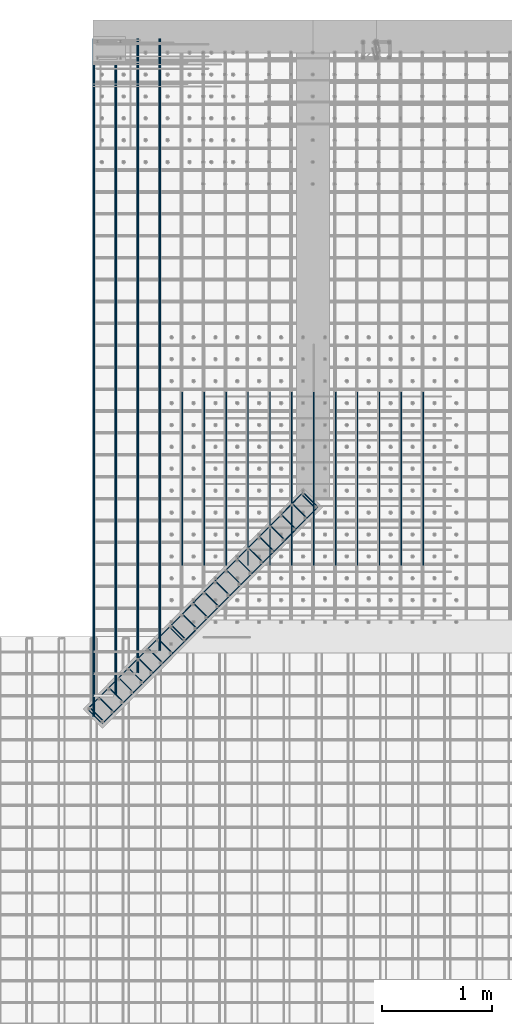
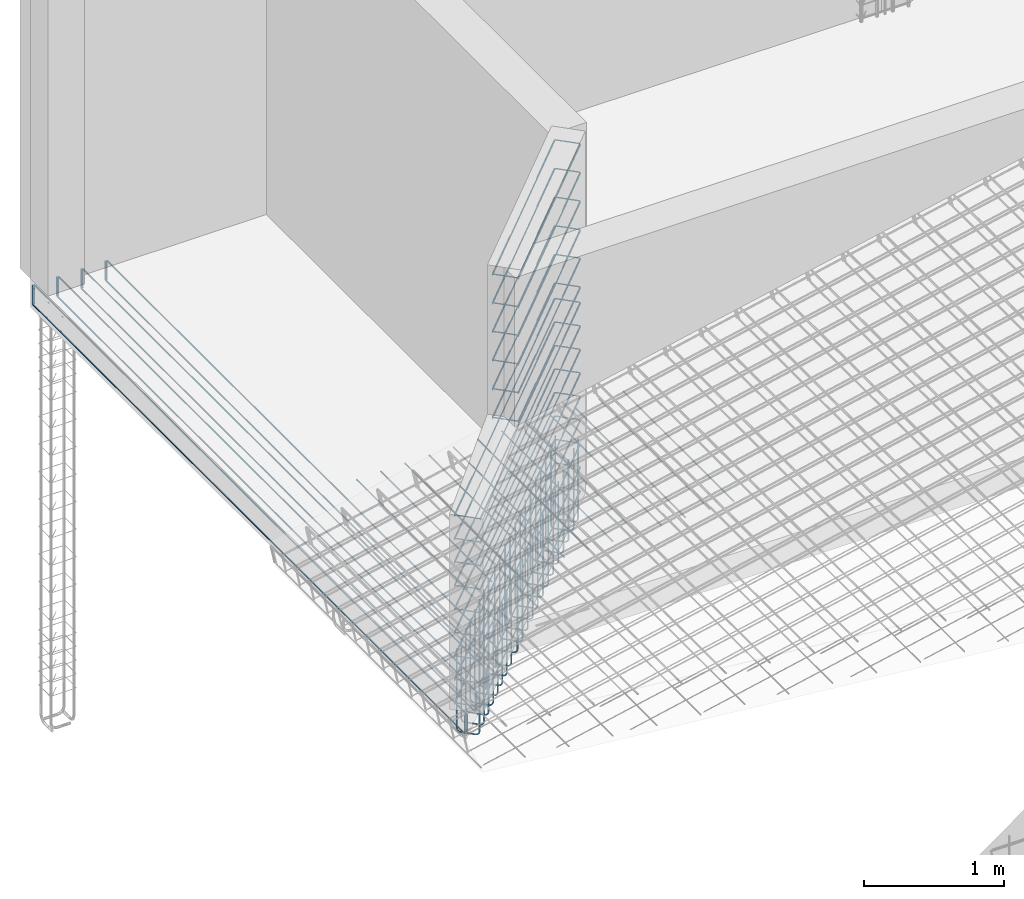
# One storey, part 5 of 17: 9 reinforcing bars.
"""IFC4 building model written with IfcOpenShell, lengths in metres."""

from ifc_helpers import new_model, entity, si_unit, frame, origin_with_axes, place, context, project, spatial, source, transform, mapped, element, save


model = new_model("IFC4")

# Units and contexts
model_context = context("Model", 3, precision=1e-05, world=origin_with_axes())
ifc_project = project(units=[si_unit("LENGTHUNIT", "METRE"), si_unit("AREAUNIT", "SQUARE_METRE"), si_unit("VOLUMEUNIT", "CUBIC_METRE"), si_unit("MASSUNIT", "GRAM", prefix="KILO"), si_unit("TIMEUNIT", "SECOND"), si_unit("PLANEANGLEUNIT", "RADIAN"), si_unit("SOLIDANGLEUNIT", "STERADIAN"), si_unit("THERMODYNAMICTEMPERATUREUNIT", "DEGREE_CELSIUS")], contexts=[model_context])

# Site, building, storey
placement_1 = place(None, origin_with_axes())
site = spatial("IfcSite", under=ifc_project, at=placement_1, Name="Italia", CompositionType="ELEMENT")
building = spatial("IfcBuilding", under=site, at=placement_1, Name="Abitazione", CompositionType="ELEMENT")
storey_placement = place(None, frame((0.0, 0.0, 3.569999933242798), z_axis=(0.0, 0.0, 1.0), x_axis=(1.0, 0.0, 0.0)))
storey = spatial("IfcBuildingStorey", under=building, at=storey_placement, Name="Storey 1", CompositionType="ELEMENT", Elevation=3.569999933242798)

# Reinforcing bars
shared_shape_1 = source(origin_with_axes(), model_context, "Body", "AdvancedSweptSolid", [
    entity("IfcSweptDiskSolid", entity("IfcIndexedPolyCurve", entity("IfcCartesianPointList3D", [[3.10307, 7.23168, 4.07], [3.10307, 7.23168, 3.375], [3.10469, 7.23007, 3.36352], [3.1093, 7.22548, 3.35379], [3.1162, 7.21862, 3.34728], [3.12434, 7.21052, 3.345], [3.17396, 7.16115, 3.345]]), [entity("IfcLineIndex", [1, 2]), entity("IfcLineIndex", [2, 3]), entity("IfcLineIndex", [3, 4]), entity("IfcLineIndex", [4, 5]), entity("IfcLineIndex", [5, 6]), entity("IfcLineIndex", [6, 7])], False), 0.006),
])
placement_2 = place(placement_1, origin_with_axes())
reinforcing_bar_1_placement = place(placement_2, origin_with_axes())
element("IfcReinforcingBar", 1, at=reinforcing_bar_1_placement, inside=storey, BarLength=0.811821, CrossSectionArea=0.0001131, NominalDiameter=0.012, context=model_context, shape_type="MappedRepresentation", body=[
    mapped(shared_shape_1, transform((-1.08847, -1.09387, 0.0), x_axis=(1.0, 0.0, 0.0), y_axis=(0.0, 1.0, 0.0), z_axis=(0.0, 0.0, 1.0), scale=1.0)),
    mapped(shared_shape_1, transform((5.33725, 13.352, 0.0), x_axis=(-1.0, 0.0, 0.0), y_axis=(0.0, -1.0, 0.0), z_axis=(0.0, 0.0, 1.0), scale=1.0)),
    mapped(shared_shape_1, transform((4.92487, 12.9375, 0.0), x_axis=(-1.0, 0.0, 0.0), y_axis=(0.0, -1.0, 0.0), z_axis=(0.0, 0.0, 1.0), scale=1.0)),
    mapped(shared_shape_1, transform((-1.4004, -1.40734, 0.0), x_axis=(1.0, 0.0, 0.0), y_axis=(0.0, 1.0, 0.0), z_axis=(0.0, 0.0, 1.0), scale=1.0)),
    mapped(shared_shape_1, transform((-1.31126, -1.31776, 0.0), x_axis=(1.0, 0.0, 0.0), y_axis=(0.0, 1.0, 0.0), z_axis=(0.0, 0.0, 1.0), scale=1.0)),
    mapped(shared_shape_1, transform((-1.48954, -1.49693, 0.0), x_axis=(1.0, 0.0, 0.0), y_axis=(0.0, 1.0, 0.0), z_axis=(0.0, 0.0, 1.0), scale=1.0)),
    mapped(shared_shape_1, transform((5.23678, 13.251, 0.0), x_axis=(-1.0, 0.0, 0.0), y_axis=(0.0, -1.0, 0.0), z_axis=(0.0, 0.0, 1.0), scale=1.0)),
    mapped(shared_shape_1, transform((5.01401, 13.0271, 0.0), x_axis=(-1.0, 0.0, 0.0), y_axis=(0.0, -1.0, 0.0), z_axis=(0.0, 0.0, 1.0), scale=1.0)),
    mapped(shared_shape_1, transform((5.13631, 13.15, 0.0), x_axis=(-1.0, 0.0, 0.0), y_axis=(0.0, -1.0, 0.0), z_axis=(0.0, 0.0, 1.0), scale=1.0)),
    mapped(shared_shape_1, transform((-1.18896, -1.19485, 0.0), x_axis=(1.0, 0.0, 0.0), y_axis=(0.0, 1.0, 0.0), z_axis=(0.0, 0.0, 1.0), scale=1.0)),
    mapped(shared_shape_1, transform((-1.57868, -1.58651, 0.0), x_axis=(1.0, 0.0, 0.0), y_axis=(0.0, 1.0, 0.0), z_axis=(0.0, 0.0, 1.0), scale=1.0)),
    mapped(shared_shape_1, transform((4.83573, 12.8479, 0.0), x_axis=(-1.0, 0.0, 0.0), y_axis=(0.0, -1.0, 0.0), z_axis=(0.0, 0.0, 1.0), scale=1.0)),
    mapped(shared_shape_1, transform((4.47916, 12.4896, 0.0), x_axis=(-1.0, 0.0, 0.0), y_axis=(0.0, -1.0, 0.0), z_axis=(0.0, 0.0, 1.0), scale=1.0)),
    mapped(shared_shape_1, transform((-1.84608, -1.85528, 0.0), x_axis=(1.0, 0.0, 0.0), y_axis=(0.0, 1.0, 0.0), z_axis=(0.0, 0.0, 1.0), scale=1.0)),
    mapped(shared_shape_1, transform((-1.75697, -1.76568, 0.0), x_axis=(1.0, 0.0, 0.0), y_axis=(0.0, 1.0, 0.0), z_axis=(0.0, 0.0, 1.0), scale=1.0)),
    mapped(shared_shape_1, transform((-1.93525, -1.94485, 0.0), x_axis=(1.0, 0.0, 0.0), y_axis=(0.0, 1.0, 0.0), z_axis=(0.0, 0.0, 1.0), scale=1.0)),
    mapped(shared_shape_1, transform((4.74659, 12.7583, 0.0), x_axis=(-1.0, 0.0, 0.0), y_axis=(0.0, -1.0, 0.0), z_axis=(0.0, 0.0, 1.0), scale=1.0)),
    mapped(shared_shape_1, transform((4.5683, 12.5792, 0.0), x_axis=(-1.0, 0.0, 0.0), y_axis=(0.0, -1.0, 0.0), z_axis=(0.0, 0.0, 1.0), scale=1.0)),
    mapped(shared_shape_1, transform((4.65742, 12.6688, 0.0), x_axis=(-1.0, 0.0, 0.0), y_axis=(0.0, -1.0, 0.0), z_axis=(0.0, 0.0, 1.0), scale=1.0)),
    mapped(shared_shape_1, transform((-1.66783, -1.6761, 0.0), x_axis=(1.0, 0.0, 0.0), y_axis=(0.0, 1.0, 0.0), z_axis=(0.0, 0.0, 1.0), scale=1.0)),
    mapped(shared_shape_1, transform((0.0, 0.0, 0.0), x_axis=(1.0, 0.0, 0.0), y_axis=(0.0, 1.0, 0.0), z_axis=(0.0, 0.0, 1.0), scale=1.0)),
    mapped(shared_shape_1, transform((4.39002, 12.4, 0.0), x_axis=(-1.0, 0.0, 0.0), y_axis=(0.0, -1.0, 0.0), z_axis=(0.0, 0.0, 1.0), scale=1.0)),
    mapped(shared_shape_1, transform((6.04072, 14.0589, 0.0), x_axis=(-1.0, 0.0, 0.0), y_axis=(0.0, -1.0, 0.0), z_axis=(0.0, 0.0, 1.0), scale=1.0)),
    mapped(shared_shape_1, transform((-0.284564, -0.285945, 0.0), x_axis=(1.0, 0.0, 0.0), y_axis=(0.0, 1.0, 0.0), z_axis=(0.0, 0.0, 1.0), scale=1.0)),
    mapped(shared_shape_1, transform((-0.184074, -0.184956, 0.0), x_axis=(1.0, 0.0, 0.0), y_axis=(0.0, 1.0, 0.0), z_axis=(0.0, 0.0, 1.0), scale=1.0)),
    mapped(shared_shape_1, transform((-0.385053, -0.386935, 0.0), x_axis=(1.0, 0.0, 0.0), y_axis=(0.0, 1.0, 0.0), z_axis=(0.0, 0.0, 1.0), scale=1.0)),
    mapped(shared_shape_1, transform((6.32526, 14.3449, 0.0), x_axis=(-1.0, 0.0, 0.0), y_axis=(0.0, -1.0, 0.0), z_axis=(0.0, 0.0, 1.0), scale=1.0)),
    mapped(shared_shape_1, transform((6.14118, 14.1599, 0.0), x_axis=(-1.0, 0.0, 0.0), y_axis=(0.0, -1.0, 0.0), z_axis=(0.0, 0.0, 1.0), scale=1.0)),
    mapped(shared_shape_1, transform((6.24167, 14.2609, 0.0), x_axis=(-1.0, 0.0, 0.0), y_axis=(0.0, -1.0, 0.0), z_axis=(0.0, 0.0, 1.0), scale=1.0)),
    mapped(shared_shape_1, transform((-0.083585, -0.0839667, 0.0), x_axis=(1.0, 0.0, 0.0), y_axis=(0.0, 1.0, 0.0), z_axis=(0.0, 0.0, 1.0), scale=1.0)),
    mapped(shared_shape_1, transform((-0.485531, -0.48793, 0.0), x_axis=(1.0, 0.0, 0.0), y_axis=(0.0, 1.0, 0.0), z_axis=(0.0, 0.0, 1.0), scale=1.0)),
    mapped(shared_shape_1, transform((5.94023, 13.9579, 0.0), x_axis=(-1.0, 0.0, 0.0), y_axis=(0.0, -1.0, 0.0), z_axis=(0.0, 0.0, 1.0), scale=1.0)),
    mapped(shared_shape_1, transform((5.53828, 13.5539, 0.0), x_axis=(-1.0, 0.0, 0.0), y_axis=(0.0, -1.0, 0.0), z_axis=(0.0, 0.0, 1.0), scale=1.0)),
    mapped(shared_shape_1, transform((-0.787011, -0.790893, 0.0), x_axis=(1.0, 0.0, 0.0), y_axis=(0.0, 1.0, 0.0), z_axis=(0.0, 0.0, 1.0), scale=1.0)),
    mapped(shared_shape_1, transform((-0.68651, -0.689908, 0.0), x_axis=(1.0, 0.0, 0.0), y_axis=(0.0, 1.0, 0.0), z_axis=(0.0, 0.0, 1.0), scale=1.0)),
    mapped(shared_shape_1, transform((-0.887477, -0.891893, 0.0), x_axis=(1.0, 0.0, 0.0), y_axis=(0.0, 1.0, 0.0), z_axis=(0.0, 0.0, 1.0), scale=1.0)),
    mapped(shared_shape_1, transform((5.83974, 13.8569, 0.0), x_axis=(-1.0, 0.0, 0.0), y_axis=(0.0, -1.0, 0.0), z_axis=(0.0, 0.0, 1.0), scale=1.0)),
    mapped(shared_shape_1, transform((5.63876, 13.6549, 0.0), x_axis=(-1.0, 0.0, 0.0), y_axis=(0.0, -1.0, 0.0), z_axis=(0.0, 0.0, 1.0), scale=1.0)),
    mapped(shared_shape_1, transform((5.73921, 13.7559, 0.0), x_axis=(-1.0, 0.0, 0.0), y_axis=(0.0, -1.0, 0.0), z_axis=(0.0, 0.0, 1.0), scale=1.0)),
    mapped(shared_shape_1, transform((-0.586009, -0.588924, 0.0), x_axis=(1.0, 0.0, 0.0), y_axis=(0.0, 1.0, 0.0), z_axis=(0.0, 0.0, 1.0), scale=1.0)),
    mapped(shared_shape_1, transform((-0.987978, -0.992877, 0.0), x_axis=(1.0, 0.0, 0.0), y_axis=(0.0, 1.0, 0.0), z_axis=(0.0, 0.0, 1.0), scale=1.0)),
    mapped(shared_shape_1, transform((5.43776, 13.453, 0.0), x_axis=(-1.0, 0.0, 0.0), y_axis=(0.0, -1.0, 0.0), z_axis=(0.0, 0.0, 1.0), scale=1.0)),
])
shared_shape_2 = source(origin_with_axes(), model_context, "Body", "AdvancedSweptSolid", [
    entity("IfcSweptDiskSolid", entity("IfcIndexedPolyCurve", entity("IfcCartesianPointList3D", [[3.24618, 7.12173, 3.6], [1.2785, 5.14426, 3.6]]), [entity("IfcLineIndex", [1, 2])], False), 0.005),
])
reinforcing_bar_2_placement = place(placement_2, origin_with_axes())
element("IfcReinforcingBar", 2, at=reinforcing_bar_2_placement, inside=storey, BarLength=2.78965, CrossSectionArea=7.854e-05, NominalDiameter=0.01, context=model_context, shape_type="MappedRepresentation", body=[
    mapped(shared_shape_2, transform((0.0, 0.0, 0.82015), x_axis=(1.0, 0.0, 0.0), y_axis=(0.0, 1.0, 0.0), z_axis=(0.0, 0.0, 1.0), scale=1.0)),
    mapped(shared_shape_2, transform((4.39, 12.4, 0.0), x_axis=(-1.0, 0.0, 0.0), y_axis=(0.0, -1.0, 0.0), z_axis=(0.0, 0.0, 1.0), scale=1.0)),
    mapped(shared_shape_2, transform((0.0, 0.0, 1.43526), x_axis=(1.0, 0.0, 0.0), y_axis=(0.0, 1.0, 0.0), z_axis=(0.0, 0.0, 1.0), scale=1.0)),
    mapped(shared_shape_2, transform((0.0, 0.0, 0.410075), x_axis=(1.0, 0.0, 0.0), y_axis=(0.0, 1.0, 0.0), z_axis=(0.0, 0.0, 1.0), scale=1.0)),
    mapped(shared_shape_2, transform((0.0, 0.0, 1.6403), x_axis=(1.0, 0.0, 0.0), y_axis=(0.0, 1.0, 0.0), z_axis=(0.0, 0.0, 1.0), scale=1.0)),
    mapped(shared_shape_2, transform((0.0, 0.0, 0.615113), x_axis=(1.0, 0.0, 0.0), y_axis=(0.0, 1.0, 0.0), z_axis=(0.0, 0.0, 1.0), scale=1.0)),
    mapped(shared_shape_2, transform((0.0, 0.0, 1.02519), x_axis=(1.0, 0.0, 0.0), y_axis=(0.0, 1.0, 0.0), z_axis=(0.0, 0.0, 1.0), scale=1.0)),
    mapped(shared_shape_2, transform((0.0, 0.0, 0.0), x_axis=(1.0, 0.0, 0.0), y_axis=(0.0, 1.0, 0.0), z_axis=(0.0, 0.0, 1.0), scale=1.0)),
    mapped(shared_shape_2, transform((4.39, 12.4, 0.205038), x_axis=(-1.0, 0.0, 0.0), y_axis=(0.0, -1.0, 0.0), z_axis=(0.0, 0.0, 1.0), scale=1.0)),
    mapped(shared_shape_2, transform((0.0, 0.0, 1.23023), x_axis=(1.0, 0.0, 0.0), y_axis=(0.0, 1.0, 0.0), z_axis=(0.0, 0.0, 1.0), scale=1.0)),
    mapped(shared_shape_2, transform((0.0, 0.0, 0.205038), x_axis=(1.0, 0.0, 0.0), y_axis=(0.0, 1.0, 0.0), z_axis=(0.0, 0.0, 1.0), scale=1.0)),
    mapped(shared_shape_2, transform((4.39, 12.4, 0.82015), x_axis=(-1.0, 0.0, 0.0), y_axis=(0.0, -1.0, 0.0), z_axis=(0.0, 0.0, 1.0), scale=1.0)),
    mapped(shared_shape_2, transform((4.39, 12.4, 1.02519), x_axis=(-1.0, 0.0, 0.0), y_axis=(0.0, -1.0, 0.0), z_axis=(0.0, 0.0, 1.0), scale=1.0)),
    mapped(shared_shape_2, transform((4.39, 12.4, 1.6403), x_axis=(-1.0, 0.0, 0.0), y_axis=(0.0, -1.0, 0.0), z_axis=(0.0, 0.0, 1.0), scale=1.0)),
    mapped(shared_shape_2, transform((4.39, 12.4, 0.615113), x_axis=(-1.0, 0.0, 0.0), y_axis=(0.0, -1.0, 0.0), z_axis=(0.0, 0.0, 1.0), scale=1.0)),
    mapped(shared_shape_2, transform((4.39, 12.4, 1.43526), x_axis=(-1.0, 0.0, 0.0), y_axis=(0.0, -1.0, 0.0), z_axis=(0.0, 0.0, 1.0), scale=1.0)),
    mapped(shared_shape_2, transform((4.39, 12.4, 0.410075), x_axis=(-1.0, 0.0, 0.0), y_axis=(0.0, -1.0, 0.0), z_axis=(0.0, 0.0, 1.0), scale=1.0)),
    mapped(shared_shape_2, transform((4.39, 12.4, 1.23023), x_axis=(-1.0, 0.0, 0.0), y_axis=(0.0, -1.0, 0.0), z_axis=(0.0, 0.0, 1.0), scale=1.0)),
])
shared_shape_3 = source(origin_with_axes(), model_context, "Body", "AdvancedSweptSolid", [
    entity("IfcSweptDiskSolid", entity("IfcIndexedPolyCurve", entity("IfcCartesianPointList3D", [[2.76588, 6.9084, 3.61], [3.10444, 7.24865, 3.61], [3.10768, 7.25083, 3.61], [3.11151, 7.2516, 3.61], [3.11534, 7.25085, 3.61], [3.11859, 7.24869, 3.61], [3.23909, 7.12878, 3.61], [3.24127, 7.12554, 3.61], [3.24204, 7.12172, 3.61], [3.24129, 7.11789, 3.61], [3.23913, 7.11464, 3.61], [2.90056, 6.77438, 3.61]]), [entity("IfcLineIndex", [1, 2]), entity("IfcLineIndex", [2, 3]), entity("IfcLineIndex", [3, 4]), entity("IfcLineIndex", [4, 5]), entity("IfcLineIndex", [5, 6]), entity("IfcLineIndex", [6, 7]), entity("IfcLineIndex", [7, 8]), entity("IfcLineIndex", [8, 9]), entity("IfcLineIndex", [9, 10]), entity("IfcLineIndex", [10, 11]), entity("IfcLineIndex", [11, 12])], False), 0.005),
])
reinforcing_bar_3_placement = place(placement_2, origin_with_axes())
element("IfcReinforcingBar", 3, at=reinforcing_bar_3_placement, inside=storey, BarLength=1.16122, CrossSectionArea=7.854e-05, NominalDiameter=0.01, context=model_context, shape_type="MappedRepresentation", body=[
    mapped(shared_shape_3, transform((0.0, 0.0, 1.43526), x_axis=(1.0, 0.0, 0.0), y_axis=(0.0, 1.0, 0.0), z_axis=(0.0, 0.0, 1.0), scale=1.0)),
    mapped(shared_shape_3, transform((4.39001, 12.4, 0.0), x_axis=(-1.0, 0.0, 0.0), y_axis=(0.0, -1.0, 0.0), z_axis=(0.0, 0.0, 1.0), scale=1.0)),
    mapped(shared_shape_3, transform((0.0, 0.0, 2.52515), x_axis=(1.0, 0.0, 0.0), y_axis=(0.0, 1.0, 0.0), z_axis=(0.0, 0.0, 1.0), scale=1.0)),
    mapped(shared_shape_3, transform((0.0, 0.0, 0.82015), x_axis=(1.0, 0.0, 0.0), y_axis=(0.0, 1.0, 0.0), z_axis=(0.0, 0.0, 1.0), scale=1.0)),
    mapped(shared_shape_3, transform((0.0, 0.0, 2.27515), x_axis=(1.0, 0.0, 0.0), y_axis=(0.0, 1.0, 0.0), z_axis=(0.0, 0.0, 1.0), scale=1.0)),
    mapped(shared_shape_3, transform((0.0, 0.0, 2.77515), x_axis=(1.0, 0.0, 0.0), y_axis=(0.0, 1.0, 0.0), z_axis=(0.0, 0.0, 1.0), scale=1.0)),
    mapped(shared_shape_3, transform((0.0, 0.0, 1.02519), x_axis=(1.0, 0.0, 0.0), y_axis=(0.0, 1.0, 0.0), z_axis=(0.0, 0.0, 1.0), scale=1.0)),
    mapped(shared_shape_3, transform((0.0, 0.0, 1.23022), x_axis=(1.0, 0.0, 0.0), y_axis=(0.0, 1.0, 0.0), z_axis=(0.0, 0.0, 1.0), scale=1.0)),
    mapped(shared_shape_3, transform((0.0, 0.0, 0.0), x_axis=(1.0, 0.0, 0.0), y_axis=(0.0, 1.0, 0.0), z_axis=(0.0, 0.0, 1.0), scale=1.0)),
    mapped(shared_shape_3, transform((4.39001, 12.4, 0.205038), x_axis=(-1.0, 0.0, 0.0), y_axis=(0.0, -1.0, 0.0), z_axis=(0.0, 0.0, 1.0), scale=1.0)),
    mapped(shared_shape_3, transform((0.0, 0.0, 3.02515), x_axis=(1.0, 0.0, 0.0), y_axis=(0.0, 1.0, 0.0), z_axis=(0.0, 0.0, 1.0), scale=1.0)),
    mapped(shared_shape_3, transform((0.0, 0.0, 0.615113), x_axis=(1.0, 0.0, 0.0), y_axis=(0.0, 1.0, 0.0), z_axis=(0.0, 0.0, 1.0), scale=1.0)),
    mapped(shared_shape_3, transform((0.0, 0.0, 0.205038), x_axis=(1.0, 0.0, 0.0), y_axis=(0.0, 1.0, 0.0), z_axis=(0.0, 0.0, 1.0), scale=1.0)),
    mapped(shared_shape_3, transform((4.39001, 12.4, 0.410075), x_axis=(-1.0, 0.0, 0.0), y_axis=(0.0, -1.0, 0.0), z_axis=(0.0, 0.0, 1.0), scale=1.0)),
    mapped(shared_shape_3, transform((0.0, 0.0, 0.410075), x_axis=(1.0, 0.0, 0.0), y_axis=(0.0, 1.0, 0.0), z_axis=(0.0, 0.0, 1.0), scale=1.0)),
    mapped(shared_shape_3, transform((4.39001, 12.4, 0.82015), x_axis=(-1.0, 0.0, 0.0), y_axis=(0.0, -1.0, 0.0), z_axis=(0.0, 0.0, 1.0), scale=1.0)),
    mapped(shared_shape_3, transform((4.39001, 12.4, 1.02519), x_axis=(-1.0, 0.0, 0.0), y_axis=(0.0, -1.0, 0.0), z_axis=(0.0, 0.0, 1.0), scale=1.0)),
    mapped(shared_shape_3, transform((4.39001, 12.4, 0.615113), x_axis=(-1.0, 0.0, 0.0), y_axis=(0.0, -1.0, 0.0), z_axis=(0.0, 0.0, 1.0), scale=1.0)),
    mapped(shared_shape_3, transform((4.39001, 12.4, 1.6403), x_axis=(-1.0, 0.0, 0.0), y_axis=(0.0, -1.0, 0.0), z_axis=(0.0, 0.0, 1.0), scale=1.0)),
    mapped(shared_shape_3, transform((4.39001, 12.4, 1.43526), x_axis=(-1.0, 0.0, 0.0), y_axis=(0.0, -1.0, 0.0), z_axis=(0.0, 0.0, 1.0), scale=1.0)),
    mapped(shared_shape_3, transform((4.39001, 12.4, 1.23022), x_axis=(-1.0, 0.0, 0.0), y_axis=(0.0, -1.0, 0.0), z_axis=(0.0, 0.0, 1.0), scale=1.0)),
    mapped(shared_shape_3, transform((0.0, 0.0, 2.02515), x_axis=(1.0, 0.0, 0.0), y_axis=(0.0, 1.0, 0.0), z_axis=(0.0, 0.0, 1.0), scale=1.0)),
    mapped(shared_shape_3, transform((0.0, 0.0, 1.6403), x_axis=(1.0, 0.0, 0.0), y_axis=(0.0, 1.0, 0.0), z_axis=(0.0, 0.0, 1.0), scale=1.0)),
    mapped(shared_shape_3, transform((5.13629, 13.15, 1.77515), x_axis=(-1.0, 0.0, 0.0), y_axis=(0.0, -1.0, 0.0), z_axis=(0.0, 0.0, 1.0), scale=1.0)),
    mapped(shared_shape_3, transform((0.0, 0.0, 1.77515), x_axis=(1.0, 0.0, 0.0), y_axis=(0.0, 1.0, 0.0), z_axis=(0.0, 0.0, 1.0), scale=1.0)),
    mapped(shared_shape_3, transform((5.13629, 13.15, 2.27515), x_axis=(-1.0, 0.0, 0.0), y_axis=(0.0, -1.0, 0.0), z_axis=(0.0, 0.0, 1.0), scale=1.0)),
    mapped(shared_shape_3, transform((5.13629, 13.15, 2.77515), x_axis=(-1.0, 0.0, 0.0), y_axis=(0.0, -1.0, 0.0), z_axis=(0.0, 0.0, 1.0), scale=1.0)),
    mapped(shared_shape_3, transform((5.13629, 13.15, 3.02515), x_axis=(-1.0, 0.0, 0.0), y_axis=(0.0, -1.0, 0.0), z_axis=(0.0, 0.0, 1.0), scale=1.0)),
    mapped(shared_shape_3, transform((5.13629, 13.15, 2.52515), x_axis=(-1.0, 0.0, 0.0), y_axis=(0.0, -1.0, 0.0), z_axis=(0.0, 0.0, 1.0), scale=1.0)),
    mapped(shared_shape_3, transform((5.13629, 13.15, 2.02515), x_axis=(-1.0, 0.0, 0.0), y_axis=(0.0, -1.0, 0.0), z_axis=(0.0, 0.0, 1.0), scale=1.0)),
])
shared_shape_4 = source(origin_with_axes(), model_context, "Body", "AdvancedSweptSolid", [
    entity("IfcSweptDiskSolid", entity("IfcIndexedPolyCurve", entity("IfcCartesianPointList3D", [[3.24618, 7.12173, 5.37515], [2.02479, 5.89426, 5.37515]]), [entity("IfcLineIndex", [1, 2])], False), 0.005),
])
reinforcing_bar_4_placement = place(placement_2, origin_with_axes())
element("IfcReinforcingBar", 4, at=reinforcing_bar_4_placement, inside=storey, BarLength=1.73161, CrossSectionArea=7.854e-05, NominalDiameter=0.01, context=model_context, shape_type="MappedRepresentation", body=[
    mapped(shared_shape_4, transform((0.0, 0.0, 1.0), x_axis=(1.0, 0.0, 0.0), y_axis=(0.0, 1.0, 0.0), z_axis=(0.0, 0.0, 1.0), scale=1.0)),
    mapped(shared_shape_4, transform((0.0, 0.0, 1.25), x_axis=(1.0, 0.0, 0.0), y_axis=(0.0, 1.0, 0.0), z_axis=(0.0, 0.0, 1.0), scale=1.0)),
    mapped(shared_shape_4, transform((0.0, 0.0, 0.75), x_axis=(1.0, 0.0, 0.0), y_axis=(0.0, 1.0, 0.0), z_axis=(0.0, 0.0, 1.0), scale=1.0)),
    mapped(shared_shape_4, transform((5.13629, 13.15, 0.0), x_axis=(-1.0, 0.0, 0.0), y_axis=(0.0, -1.0, 0.0), z_axis=(0.0, 0.0, 1.0), scale=1.0)),
    mapped(shared_shape_4, transform((0.0, 0.0, 0.25), x_axis=(1.0, 0.0, 0.0), y_axis=(0.0, 1.0, 0.0), z_axis=(0.0, 0.0, 1.0), scale=1.0)),
    mapped(shared_shape_4, transform((0.0, 0.0, 0.5), x_axis=(1.0, 0.0, 0.0), y_axis=(0.0, 1.0, 0.0), z_axis=(0.0, 0.0, 1.0), scale=1.0)),
    mapped(shared_shape_4, transform((0.0, 0.0, 0.0), x_axis=(1.0, 0.0, 0.0), y_axis=(0.0, 1.0, 0.0), z_axis=(0.0, 0.0, 1.0), scale=1.0)),
    mapped(shared_shape_4, transform((5.13629, 13.15, 1.25), x_axis=(-1.0, 0.0, 0.0), y_axis=(0.0, -1.0, 0.0), z_axis=(0.0, 0.0, 1.0), scale=1.0)),
    mapped(shared_shape_4, transform((5.13629, 13.15, 0.75), x_axis=(-1.0, 0.0, 0.0), y_axis=(0.0, -1.0, 0.0), z_axis=(0.0, 0.0, 1.0), scale=1.0)),
    mapped(shared_shape_4, transform((5.13629, 13.15, 1.0), x_axis=(-1.0, 0.0, 0.0), y_axis=(0.0, -1.0, 0.0), z_axis=(0.0, 0.0, 1.0), scale=1.0)),
    mapped(shared_shape_4, transform((5.13629, 13.15, 0.5), x_axis=(-1.0, 0.0, 0.0), y_axis=(0.0, -1.0, 0.0), z_axis=(0.0, 0.0, 1.0), scale=1.0)),
    mapped(shared_shape_4, transform((5.13629, 13.15, 0.25), x_axis=(-1.0, 0.0, 0.0), y_axis=(0.0, -1.0, 0.0), z_axis=(0.0, 0.0, 1.0), scale=1.0)),
])
shared_shape_5 = source(origin_with_axes(), model_context, "Body", "AdvancedSweptSolid", [
    entity("IfcSweptDiskSolid", entity("IfcIndexedPolyCurve", entity("IfcCartesianPointList3D", [[1.206, 5.21205, 3.362], [1.206, 5.21205, 3.518], [1.206, 5.21281, 3.52183], [1.206, 5.21498, 3.52507], [1.206, 5.21822, 3.52724], [1.206, 5.22205, 3.528], [1.206, 11.386, 3.528], [1.206, 11.3898, 3.52724], [1.206, 11.3931, 3.52507], [1.206, 11.3952, 3.52183], [1.206, 11.396, 3.518], [1.206, 11.396, 3.362]]), [entity("IfcLineIndex", [1, 2]), entity("IfcLineIndex", [2, 3]), entity("IfcLineIndex", [3, 4]), entity("IfcLineIndex", [4, 5]), entity("IfcLineIndex", [5, 6]), entity("IfcLineIndex", [6, 7]), entity("IfcLineIndex", [7, 8]), entity("IfcLineIndex", [8, 9]), entity("IfcLineIndex", [9, 10]), entity("IfcLineIndex", [10, 11]), entity("IfcLineIndex", [11, 12])], False), 0.006),
])
reinforcing_bar_5_placement = place(placement_2, origin_with_axes())
element("IfcReinforcingBar", 5, at=reinforcing_bar_5_placement, inside=storey, BarLength=6.50716, CrossSectionArea=0.0001131, NominalDiameter=0.012, context=model_context, shape_type="MappedRepresentation", body=[
    mapped(shared_shape_5, transform((2.4, 0.0, 6.89), x_axis=(-1.0, 0.0, 0.0), y_axis=(0.0, 1.0, 0.0), z_axis=(0.0, 0.0, -1.0), scale=1.0)),
    mapped(shared_shape_5, transform((0.0, 0.0, 0.0), x_axis=(1.0, 0.0, 0.0), y_axis=(0.0, 1.0, 0.0), z_axis=(0.0, 0.0, 1.0), scale=1.0)),
])
shared_shape_6 = source(origin_with_axes(), model_context, "Body", "AdvancedSweptSolid", [
    entity("IfcSweptDiskSolid", entity("IfcIndexedPolyCurve", entity("IfcCartesianPointList3D", [[1.406, 5.41304, 3.362], [1.406, 5.41304, 3.518], [1.406, 5.41381, 3.52183], [1.406, 5.41597, 3.52507], [1.406, 5.41922, 3.52724], [1.406, 5.42304, 3.528], [1.406, 11.386, 3.528], [1.406, 11.3898, 3.52724], [1.406, 11.3931, 3.52507], [1.406, 11.3952, 3.52183], [1.406, 11.396, 3.518], [1.406, 11.396, 3.362]]), [entity("IfcLineIndex", [1, 2]), entity("IfcLineIndex", [2, 3]), entity("IfcLineIndex", [3, 4]), entity("IfcLineIndex", [4, 5]), entity("IfcLineIndex", [5, 6]), entity("IfcLineIndex", [6, 7]), entity("IfcLineIndex", [7, 8]), entity("IfcLineIndex", [8, 9]), entity("IfcLineIndex", [9, 10]), entity("IfcLineIndex", [10, 11]), entity("IfcLineIndex", [11, 12])], False), 0.006),
])
reinforcing_bar_6_placement = place(placement_2, origin_with_axes())
element("IfcReinforcingBar", 6, at=reinforcing_bar_6_placement, inside=storey, BarLength=6.30617, CrossSectionArea=0.0001131, NominalDiameter=0.012, context=model_context, shape_type="MappedRepresentation", body=[
    mapped(shared_shape_6, transform((2.8, 0.0, 6.89), x_axis=(-1.0, 0.0, 0.0), y_axis=(0.0, 1.0, 0.0), z_axis=(0.0, 0.0, -1.0), scale=1.0)),
    mapped(shared_shape_6, transform((0.0, 0.0, 0.0), x_axis=(1.0, 0.0, 0.0), y_axis=(0.0, 1.0, 0.0), z_axis=(0.0, 0.0, 1.0), scale=1.0)),
])
shared_shape_7 = source(origin_with_axes(), model_context, "Body", "AdvancedSweptSolid", [
    entity("IfcSweptDiskSolid", entity("IfcIndexedPolyCurve", entity("IfcCartesianPointList3D", [[1.606, 5.61404, 3.362], [1.606, 5.61404, 3.518], [1.606, 5.6148, 3.52183], [1.606, 5.61697, 3.52507], [1.606, 5.62021, 3.52724], [1.606, 5.62404, 3.528], [1.606, 11.386, 3.528], [1.606, 11.3898, 3.52724], [1.606, 11.3931, 3.52507], [1.606, 11.3952, 3.52183], [1.606, 11.396, 3.518], [1.606, 11.396, 3.362]]), [entity("IfcLineIndex", [1, 2]), entity("IfcLineIndex", [2, 3]), entity("IfcLineIndex", [3, 4]), entity("IfcLineIndex", [4, 5]), entity("IfcLineIndex", [5, 6]), entity("IfcLineIndex", [6, 7]), entity("IfcLineIndex", [7, 8]), entity("IfcLineIndex", [8, 9]), entity("IfcLineIndex", [9, 10]), entity("IfcLineIndex", [10, 11]), entity("IfcLineIndex", [11, 12])], False), 0.006),
])
reinforcing_bar_7_placement = place(placement_2, origin_with_axes())
element("IfcReinforcingBar", 7, at=reinforcing_bar_7_placement, inside=storey, BarLength=6.10517, CrossSectionArea=0.0001131, NominalDiameter=0.012, context=model_context, shape_type="MappedRepresentation", body=[
    mapped(shared_shape_7, transform((3.2, 0.0, 6.89), x_axis=(-1.0, 0.0, 0.0), y_axis=(0.0, 1.0, 0.0), z_axis=(0.0, 0.0, -1.0), scale=1.0)),
    mapped(shared_shape_7, transform((0.0, 0.0, 0.0), x_axis=(1.0, 0.0, 0.0), y_axis=(0.0, 1.0, 0.0), z_axis=(0.0, 0.0, 1.0), scale=1.0)),
])
shared_shape_8 = source(origin_with_axes(), model_context, "Body", "AdvancedSweptSolid", [
    entity("IfcSweptDiskSolid", entity("IfcIndexedPolyCurve", entity("IfcCartesianPointList3D", [[1.806, 5.81504, 3.362], [1.806, 5.81504, 3.518], [1.806, 5.8158, 3.52183], [1.806, 5.81796, 3.52507], [1.806, 5.82121, 3.52724], [1.806, 5.82504, 3.528], [1.806, 11.386, 3.528], [1.806, 11.3898, 3.52724], [1.806, 11.3931, 3.52507], [1.806, 11.3952, 3.52183], [1.806, 11.396, 3.518], [1.806, 11.396, 3.362]]), [entity("IfcLineIndex", [1, 2]), entity("IfcLineIndex", [2, 3]), entity("IfcLineIndex", [3, 4]), entity("IfcLineIndex", [4, 5]), entity("IfcLineIndex", [5, 6]), entity("IfcLineIndex", [6, 7]), entity("IfcLineIndex", [7, 8]), entity("IfcLineIndex", [8, 9]), entity("IfcLineIndex", [9, 10]), entity("IfcLineIndex", [10, 11]), entity("IfcLineIndex", [11, 12])], False), 0.006),
])
reinforcing_bar_8_placement = place(placement_2, origin_with_axes())
element("IfcReinforcingBar", 8, at=reinforcing_bar_8_placement, inside=storey, BarLength=5.90418, CrossSectionArea=0.0001131, NominalDiameter=0.012, context=model_context, shape_type="MappedRepresentation", body=[
    mapped(shared_shape_8, transform((3.6, 0.0, 6.89), x_axis=(-1.0, 0.0, 0.0), y_axis=(0.0, 1.0, 0.0), z_axis=(0.0, 0.0, -1.0), scale=1.0)),
    mapped(shared_shape_8, transform((0.0, 0.0, 0.0), x_axis=(1.0, 0.0, 0.0), y_axis=(0.0, 1.0, 0.0), z_axis=(0.0, 0.0, 1.0), scale=1.0)),
])
shared_shape_9 = source(origin_with_axes(), model_context, "Body", "AdvancedSweptSolid", [
    entity("IfcSweptDiskSolid", entity("IfcIndexedPolyCurve", entity("IfcCartesianPointList3D", [[2.0079, 6.58959, 3.5], [2.0079, 8.1755, 3.5]]), [entity("IfcLineIndex", [1, 2])], False), 0.006),
])
reinforcing_bar_9_placement = place(placement_2, origin_with_axes())
element("IfcReinforcingBar", 9, at=reinforcing_bar_9_placement, inside=storey, BarLength=1.58591, CrossSectionArea=0.0001131, NominalDiameter=0.012, context=model_context, shape_type="MappedRepresentation", body=[
    mapped(shared_shape_9, transform((1.6, 0.0, 0.0), x_axis=(1.0, 0.0, 0.0), y_axis=(0.0, 1.0, 0.0), z_axis=(0.0, 0.0, 1.0), scale=1.0)),
    mapped(shared_shape_9, transform((1.4, 0.0, 0.0), x_axis=(1.0, 0.0, 0.0), y_axis=(0.0, 1.0, 0.0), z_axis=(0.0, 0.0, 1.0), scale=1.0)),
    mapped(shared_shape_9, transform((1.2, 0.0, 0.0), x_axis=(1.0, 0.0, 0.0), y_axis=(0.0, 1.0, 0.0), z_axis=(0.0, 0.0, 1.0), scale=1.0)),
    mapped(shared_shape_9, transform((2.2, 0.0, 0.0), x_axis=(1.0, 0.0, 0.0), y_axis=(0.0, 1.0, 0.0), z_axis=(0.0, 0.0, 1.0), scale=1.0)),
    mapped(shared_shape_9, transform((2.0, 0.0, 0.0), x_axis=(1.0, 0.0, 0.0), y_axis=(0.0, 1.0, 0.0), z_axis=(0.0, 0.0, 1.0), scale=1.0)),
    mapped(shared_shape_9, transform((1.8, 0.0, 0.0), x_axis=(1.0, 0.0, 0.0), y_axis=(0.0, 1.0, 0.0), z_axis=(0.0, 0.0, 1.0), scale=1.0)),
    mapped(shared_shape_9, transform((0.4, 0.0, 0.0), x_axis=(1.0, 0.0, 0.0), y_axis=(0.0, 1.0, 0.0), z_axis=(0.0, 0.0, 1.0), scale=1.0)),
    mapped(shared_shape_9, transform((0.2, 0.0, 0.0), x_axis=(1.0, 0.0, 0.0), y_axis=(0.0, 1.0, 0.0), z_axis=(0.0, 0.0, 1.0), scale=1.0)),
    mapped(shared_shape_9, transform((0.0, 0.0, 0.0), x_axis=(1.0, 0.0, 0.0), y_axis=(0.0, 1.0, 0.0), z_axis=(0.0, 0.0, 1.0), scale=1.0)),
    mapped(shared_shape_9, transform((1.0, 0.0, 0.0), x_axis=(1.0, 0.0, 0.0), y_axis=(0.0, 1.0, 0.0), z_axis=(0.0, 0.0, 1.0), scale=1.0)),
    mapped(shared_shape_9, transform((0.8, 0.0, 0.0), x_axis=(1.0, 0.0, 0.0), y_axis=(0.0, 1.0, 0.0), z_axis=(0.0, 0.0, 1.0), scale=1.0)),
    mapped(shared_shape_9, transform((0.6, 0.0, 0.0), x_axis=(1.0, 0.0, 0.0), y_axis=(0.0, 1.0, 0.0), z_axis=(0.0, 0.0, 1.0), scale=1.0)),
])

save(model, "model.ifc")
